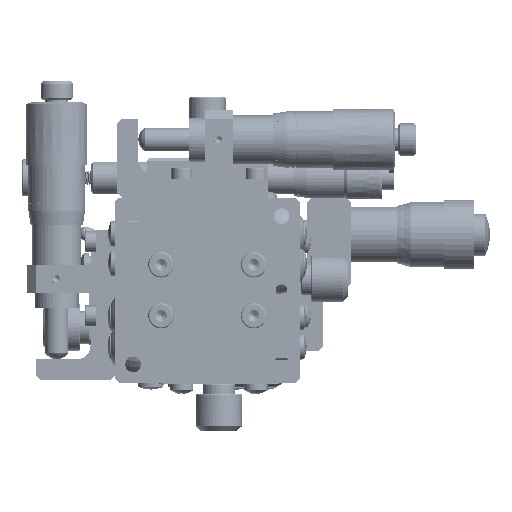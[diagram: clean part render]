
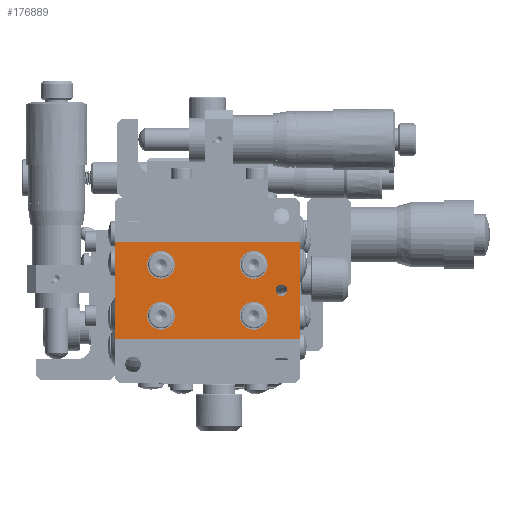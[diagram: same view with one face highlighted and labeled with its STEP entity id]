
A CAD part, front view. The second image highlights one B-rep face of the part: STEP entity #176889.
In plain terms, the highlighted planar face has unit normal (0, -1, 0).
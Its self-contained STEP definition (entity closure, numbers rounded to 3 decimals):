
#2921 = AXIS2_PLACEMENT_3D ( 'NONE', #181841, #232703, #303710 ) ;
#6888 = VERTEX_POINT ( 'NONE', #170581 ) ;
#11070 = DIRECTION ( 'NONE',  ( 0., -1., 0. ) ) ;
#15080 = FACE_BOUND ( 'NONE', #289152, .T. ) ;
#23629 = VERTEX_POINT ( 'NONE', #275744 ) ;
#25337 = EDGE_CURVE ( 'NONE', #256045, #23629, #189139, .T. ) ;
#26232 = DIRECTION ( 'NONE',  ( 0., 0., 1. ) ) ;
#29076 = VERTEX_POINT ( 'NONE', #144930 ) ;
#31035 = EDGE_CURVE ( 'NONE', #256045, #78879, #39179, .T. ) ;
#32910 = ORIENTED_EDGE ( 'NONE', *, *, #227352, .T. ) ;
#34239 = CARTESIAN_POINT ( 'NONE',  ( 10., -76.5, -25.5 ) ) ;
#38210 = EDGE_CURVE ( 'NONE', #6888, #6888, #62266, .T. ) ;
#39179 = LINE ( 'NONE', #267747, #253003 ) ;
#43076 = AXIS2_PLACEMENT_3D ( 'NONE', #231624, #230103, #114302 ) ;
#46656 = CARTESIAN_POINT ( 'NONE',  ( 33., -76.5, -14.5 ) ) ;
#53156 = EDGE_CURVE ( 'NONE', #29076, #29076, #171397, .T. ) ;
#54370 = DIRECTION ( 'NONE',  ( 1., 0., 0. ) ) ;
#54515 = AXIS2_PLACEMENT_3D ( 'NONE', #149270, #221756, #291217 ) ;
#60674 = EDGE_CURVE ( 'NONE', #177184, #177184, #97595, .T. ) ;
#62266 = CIRCLE ( 'NONE', #2921, 3. ) ;
#64208 = CIRCLE ( 'NONE', #54515, 1.25 ) ;
#74570 = LINE ( 'NONE', #113648, #217667 ) ;
#78879 = VERTEX_POINT ( 'NONE', #113739 ) ;
#80397 = EDGE_CURVE ( 'NONE', #78879, #137249, #145112, .T. ) ;
#82629 = EDGE_LOOP ( 'NONE', ( #32910 ) ) ;
#84603 = FACE_BOUND ( 'NONE', #82629, .T. ) ;
#90151 = ORIENTED_EDGE ( 'NONE', *, *, #53156, .F. ) ;
#92542 = CARTESIAN_POINT ( 'NONE',  ( 10., -76.5, -14.5 ) ) ;
#97595 = CIRCLE ( 'NONE', #215953, 3. ) ;
#102873 = VERTEX_POINT ( 'NONE', #132100 ) ;
#103341 = EDGE_LOOP ( 'NONE', ( #251281, #149896, #232148, #143386 ) ) ;
#106230 = CARTESIAN_POINT ( 'NONE',  ( 0., -76.5, -9.5 ) ) ;
#111528 = ORIENTED_EDGE ( 'NONE', *, *, #38210, .F. ) ;
#113648 = CARTESIAN_POINT ( 'NONE',  ( 0., -76.5, -9.5 ) ) ;
#113739 = CARTESIAN_POINT ( 'NONE',  ( 40., -76.5, -30.5 ) ) ;
#114302 = DIRECTION ( 'NONE',  ( 1., 0., 0. ) ) ;
#128921 = ORIENTED_EDGE ( 'NONE', *, *, #197940, .F. ) ;
#132100 = CARTESIAN_POINT ( 'NONE',  ( 37.25, -76.5, -20. ) ) ;
#135808 = DIRECTION ( 'NONE',  ( 1., 0., 0. ) ) ;
#137249 = VERTEX_POINT ( 'NONE', #217809 ) ;
#143386 = ORIENTED_EDGE ( 'NONE', *, *, #31035, .T. ) ;
#143594 = CARTESIAN_POINT ( 'NONE',  ( 40., -76.5, -9.5 ) ) ;
#144930 = CARTESIAN_POINT ( 'NONE',  ( 13., -76.5, -25.5 ) ) ;
#145112 = LINE ( 'NONE', #143594, #301953 ) ;
#149270 = CARTESIAN_POINT ( 'NONE',  ( 36., -76.5, -20. ) ) ;
#149896 = ORIENTED_EDGE ( 'NONE', *, *, #206959, .F. ) ;
#155638 = FACE_BOUND ( 'NONE', #293645, .T. ) ;
#160515 = DIRECTION ( 'NONE',  ( 0., -1., 0. ) ) ;
#166300 = CIRCLE ( 'NONE', #43076, 3. ) ;
#170581 = CARTESIAN_POINT ( 'NONE',  ( 33., -76.5, -25.5 ) ) ;
#171397 = CIRCLE ( 'NONE', #210855, 3. ) ;
#176889 = ADVANCED_FACE ( 'NONE', ( #84603, #275954, #223573, #178783, #15080, #155638 ), #228130, .F. ) ;
#177184 = VERTEX_POINT ( 'NONE', #271306 ) ;
#178783 = FACE_OUTER_BOUND ( 'NONE', #103341, .T. ) ;
#180287 = DIRECTION ( 'NONE',  ( 1., 0., 0. ) ) ;
#181841 = CARTESIAN_POINT ( 'NONE',  ( 30., -76.5, -25.5 ) ) ;
#188348 = VECTOR ( 'NONE', #261598, 1000. ) ;
#189139 = LINE ( 'NONE', #283255, #188348 ) ;
#191734 = VERTEX_POINT ( 'NONE', #46656 ) ;
#197940 = EDGE_CURVE ( 'NONE', #191734, #191734, #166300, .T. ) ;
#206959 = EDGE_CURVE ( 'NONE', #23629, #137249, #74570, .T. ) ;
#210855 = AXIS2_PLACEMENT_3D ( 'NONE', #34239, #11070, #54370 ) ;
#215953 = AXIS2_PLACEMENT_3D ( 'NONE', #92542, #160515, #135808 ) ;
#217667 = VECTOR ( 'NONE', #287560, 1000. ) ;
#217809 = CARTESIAN_POINT ( 'NONE',  ( 40., -76.5, -9.5 ) ) ;
#221452 = DIRECTION ( 'NONE',  ( 1., 0., 0. ) ) ;
#221756 = DIRECTION ( 'NONE',  ( 0., 1., 0. ) ) ;
#223573 = FACE_BOUND ( 'NONE', #294328, .T. ) ;
#227352 = EDGE_CURVE ( 'NONE', #102873, #102873, #64208, .T. ) ;
#228130 = PLANE ( 'NONE',  #293118 ) ;
#230103 = DIRECTION ( 'NONE',  ( 0., -1., 0. ) ) ;
#231624 = CARTESIAN_POINT ( 'NONE',  ( 30., -76.5, -14.5 ) ) ;
#232148 = ORIENTED_EDGE ( 'NONE', *, *, #25337, .F. ) ;
#232703 = DIRECTION ( 'NONE',  ( 0., -1., 0. ) ) ;
#249777 = DIRECTION ( 'NONE',  ( 0., 1., 0. ) ) ;
#251281 = ORIENTED_EDGE ( 'NONE', *, *, #80397, .T. ) ;
#253003 = VECTOR ( 'NONE', #221452, 1000. ) ;
#256045 = VERTEX_POINT ( 'NONE', #295453 ) ;
#261598 = DIRECTION ( 'NONE',  ( 0., 0., 1. ) ) ;
#267747 = CARTESIAN_POINT ( 'NONE',  ( 0., -76.5, -30.5 ) ) ;
#271306 = CARTESIAN_POINT ( 'NONE',  ( 13., -76.5, -14.5 ) ) ;
#275744 = CARTESIAN_POINT ( 'NONE',  ( 0., -76.5, -9.5 ) ) ;
#275954 = FACE_BOUND ( 'NONE', #278920, .T. ) ;
#278920 = EDGE_LOOP ( 'NONE', ( #283705 ) ) ;
#283255 = CARTESIAN_POINT ( 'NONE',  ( 0., -76.5, -9.5 ) ) ;
#283705 = ORIENTED_EDGE ( 'NONE', *, *, #60674, .F. ) ;
#287560 = DIRECTION ( 'NONE',  ( 1., 0., 0. ) ) ;
#289152 = EDGE_LOOP ( 'NONE', ( #90151 ) ) ;
#291217 = DIRECTION ( 'NONE',  ( 1., 0., 0. ) ) ;
#293118 = AXIS2_PLACEMENT_3D ( 'NONE', #106230, #249777, #180287 ) ;
#293645 = EDGE_LOOP ( 'NONE', ( #128921 ) ) ;
#294328 = EDGE_LOOP ( 'NONE', ( #111528 ) ) ;
#295453 = CARTESIAN_POINT ( 'NONE',  ( 0., -76.5, -30.5 ) ) ;
#301953 = VECTOR ( 'NONE', #26232, 1000. ) ;
#303710 = DIRECTION ( 'NONE',  ( 1., 0., 0. ) ) ;
